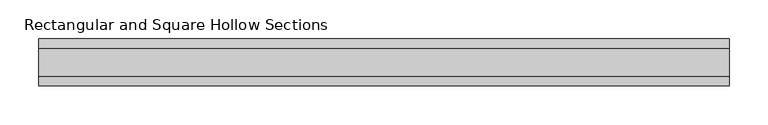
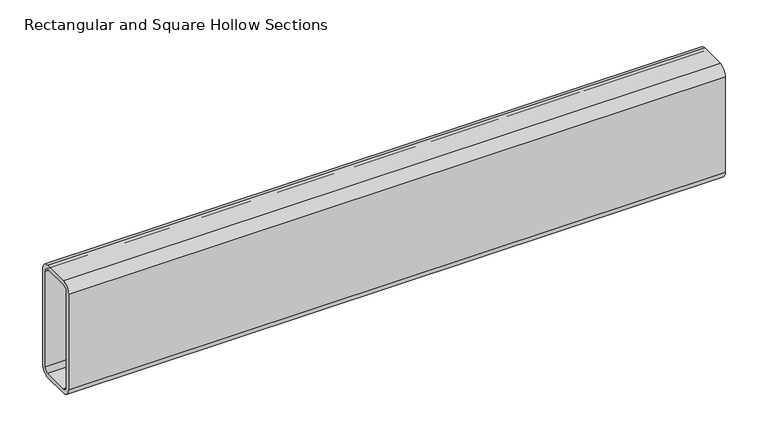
"""IFC4 building model written with IfcOpenShell, lengths in millimetres: beam geometry, Rectangular and Square Hollow Sections : TREC160x60x6."""

import ifcopenshell
import ifcopenshell.guid

model = None  # the IFC model being written
_history = None  # IfcOwnerHistory: only IFC2X3 demands one
_inside = {}  # id of a spatial element -> (the spatial element, [elements in it])
_under = {}  # id of a project, library or spatial element -> (it, [spatial elements below it])
_declared = {}  # id of a project -> (the project, [libraries it declares])
_typed = {}  # id of a type object -> (the type object, [elements of that type])
_made_of = {}  # id of a material, layer set ... -> (it, [elements and type objects made of it])


def new_model(schema):
    """Start an empty IFC model of exactly this schema.

    Asked for "IFC4X3", IfcOpenShell would pick the latest addendum, in which some entities
    have other attributes; the version numbers below select the first issue.
    IFC2X3 requires an IfcOwnerHistory on every rooted entity: one is made here for all.
    """
    global model, _history
    if schema == "IFC4X3":
        model = ifcopenshell.file(schema_version=(4, 3, 0, 0))
    else:
        model = ifcopenshell.file(schema=schema)
    _inside.clear()
    _under.clear()
    _declared.clear()
    _typed.clear()
    _made_of.clear()
    _history = None
    if model.schema == "IFC2X3":
        org = make("IfcOrganization", Name="unknown")
        user = make(
            "IfcPersonAndOrganization",
            ThePerson=make("IfcPerson", FamilyName="unknown"),
            TheOrganization=org,
        )
        app = make(
            "IfcApplication",
            ApplicationDeveloper=org,
            Version="unknown",
            ApplicationFullName="unknown",
            ApplicationIdentifier="unknown",
        )
        _history = make(
            "IfcOwnerHistory",
            OwningUser=user,
            OwningApplication=app,
            ChangeAction="ADDED",
            CreationDate=0,
        )
    return model


def make(cls, **values):
    """One entity of the class cls with the attributes given. An attribute that is None is left unset."""
    return model.create_entity(
        cls, **{name: value for name, value in values.items() if value is not None}
    )


def rooted(cls, **values):
    """An entity with a GlobalId (a new one), such as an element, a storey or a relation."""
    return make(cls, GlobalId=ifcopenshell.guid.new(), OwnerHistory=_history, **values)


def si_unit(unit_type, name, prefix=None):
    """IfcSIUnit, for example si_unit("LENGTHUNIT", "METRE", prefix="MILLI")."""
    return make("IfcSIUnit", UnitType=unit_type, Prefix=prefix, Name=name)


def assignment(units):
    """IfcUnitAssignment: the units of a project."""
    return None if units is None else make("IfcUnitAssignment", Units=units)


def point(xyz):
    """IfcCartesianPoint."""
    return None if xyz is None else make("IfcCartesianPoint", Coordinates=xyz)


def direction(xyz):
    """IfcDirection."""
    return None if xyz is None else make("IfcDirection", DirectionRatios=xyz)


def frame(location, z_axis=None, x_axis=None):
    """IfcAxis2Placement3D, a coordinate frame: its origin and axes. An axis left out is left unset."""
    return make(
        "IfcAxis2Placement3D",
        Location=point(location),
        Axis=direction(z_axis),
        RefDirection=direction(x_axis),
    )


def frame_2d(location, x_axis=None):
    """IfcAxis2Placement2D, a coordinate frame in the plane: its origin and x axis."""
    return make(
        "IfcAxis2Placement2D", Location=point(location), RefDirection=direction(x_axis)
    )


def origin():
    """The frame at (0, 0, 0) with its axes left unset."""
    return frame((0.0, 0.0, 0.0))


def place(relative_to, where):
    """IfcLocalPlacement: puts the frame where relative to a parent placement (None: the world)."""
    return make(
        "IfcLocalPlacement", PlacementRelTo=relative_to, RelativePlacement=where
    )


def context(
    kind, dimensions, precision=None, world=None, true_north=None, identifier=None
):
    """IfcGeometricRepresentationContext, for example the 3D "Model" context."""
    return make(
        "IfcGeometricRepresentationContext",
        ContextIdentifier=identifier,
        ContextType=kind,
        CoordinateSpaceDimension=dimensions,
        Precision=precision,
        WorldCoordinateSystem=world,
        TrueNorth=true_north,
    )


def project(units=None, contexts=None):
    """IfcProject with its units and contexts."""
    return rooted(
        "IfcProject",
        Name="project",
        RepresentationContexts=contexts,
        UnitsInContext=assignment(units),
    )


def spatial(cls, under=None, at=None, **own):
    """A site, building, storey or space (cls), placed at a placement, below another one or the project."""
    s = rooted(cls, ObjectPlacement=at, **own)
    if under is not None:
        _under.setdefault(under.id(), (under, []))[1].append(s)
    return s


def polyline(points):
    """IfcPolyline through the points."""
    return make("IfcPolyline", Points=[point(p) for p in points])


def circle_curve(where, radius):
    """IfcCircle in the frame where."""
    return make("IfcCircle", Position=where, Radius=radius)


def trimmed(basis, trim1, trim2, sense, master):
    """IfcTrimmedCurve: the piece of a basis curve between two trims."""
    return make(
        "IfcTrimmedCurve",
        BasisCurve=basis,
        Trim1=trim1,
        Trim2=trim2,
        SenseAgreement=sense,
        MasterRepresentation=master,
    )


def segment(curve, same_sense, transition):
    """IfcCompositeCurveSegment."""
    return make(
        "IfcCompositeCurveSegment",
        Transition=transition,
        SameSense=same_sense,
        ParentCurve=curve,
    )


def composite_curve(segments, self_intersect=None):
    """IfcCompositeCurve: segments joined end to end."""
    return make("IfcCompositeCurve", Segments=segments, SelfIntersect=self_intersect)


def outline(outer, holes=None, kind="AREA"):
    """IfcArbitraryClosedProfileDef: a profile drawn as a closed curve; with holes, ...WithVoids."""
    if holes is None:
        return make("IfcArbitraryClosedProfileDef", ProfileType=kind, OuterCurve=outer)
    return make(
        "IfcArbitraryProfileDefWithVoids",
        ProfileType=kind,
        OuterCurve=outer,
        InnerCurves=holes,
    )


def extrude(swept, where, along, depth):
    """IfcExtrudedAreaSolid: the profile swept, set in the frame where, extruded along a direction by depth."""
    return make(
        "IfcExtrudedAreaSolid",
        SweptArea=swept,
        Position=where,
        ExtrudedDirection=direction(along),
        Depth=depth,
    )


def shape(context_of_items, identifier, shape_type, items):
    """IfcShapeRepresentation: the items that make up one representation, for example the "Body"."""
    return make(
        "IfcShapeRepresentation",
        ContextOfItems=context_of_items,
        RepresentationIdentifier=identifier,
        RepresentationType=shape_type,
        Items=items,
    )


def source(mapping_origin, context_of_items, identifier, shape_type, items):
    """IfcRepresentationMap: a shape defined once, which mapped items show again and again."""
    return make(
        "IfcRepresentationMap",
        MappingOrigin=mapping_origin,
        MappedRepresentation=shape(context_of_items, identifier, shape_type, items),
    )


def transform(
    local_origin,
    x_axis=None,
    y_axis=None,
    z_axis=None,
    scale=None,
    scale2=None,
    scale3=None,
    uniform=True,
):
    """IfcCartesianTransformationOperator3D, or its non-uniform kind. x_axis, y_axis, z_axis: its Axis1, 2, 3."""
    if uniform:
        return make(
            "IfcCartesianTransformationOperator3D",
            Axis1=direction(x_axis),
            Axis2=direction(y_axis),
            LocalOrigin=point(local_origin),
            Scale=scale,
            Axis3=direction(z_axis),
        )
    return make(
        "IfcCartesianTransformationOperator3DnonUniform",
        Axis1=direction(x_axis),
        Axis2=direction(y_axis),
        LocalOrigin=point(local_origin),
        Scale=scale,
        Axis3=direction(z_axis),
        Scale2=scale2,
        Scale3=scale3,
    )


def mapped(mapping_source, mapping_target):
    """IfcMappedItem: shows the shape of a source again, moved by a transform."""
    return make(
        "IfcMappedItem", MappingSource=mapping_source, MappingTarget=mapping_target
    )


def made_of(thing, what):
    """Note that an element or type object is made of a material, layer set ...; save() writes the relation."""
    if what is not None:
        _made_of.setdefault(what.id(), (what, []))[1].append(thing)
    return thing


def element(
    cls,
    number,
    at=None,
    inside=None,
    cuts=None,
    type_object=None,
    material=None,
    context=None,
    identifier="Body",
    shape_type=None,
    held_by="IfcProductDefinitionShape",
    body=None,
    shapes=None,
    **own,
):
    """One element of the class cls, such as IfcWall. Its Tag is "e" and its number.

    at: its placement. inside: the storey or other place that contains it. cuts: it is an
    opening in that element (IfcRelVoidsElement). A single representation is given by context,
    identifier, shape_type and body (its items); several are given by shapes. held_by: the class
    of the entity that holds the representations. save() writes the other relations.
    """
    e = rooted(cls, Tag="e%d" % number, ObjectPlacement=at, **own)
    if body is not None:
        shapes = [shape(context, identifier, shape_type, body)]
    if shapes is not None:
        e.Representation = make(held_by, Representations=shapes)
    if inside is not None:
        _inside.setdefault(inside.id(), (inside, []))[1].append(e)
    if cuts is not None:
        rooted(
            "IfcRelVoidsElement", RelatingBuildingElement=cuts, RelatedOpeningElement=e
        )
    if type_object is not None:
        _typed.setdefault(type_object.id(), (type_object, []))[1].append(e)
    return made_of(e, material)


def aggregate(whole, parts):
    """IfcRelAggregates: a whole, such as a stair, and the parts it consists of."""
    return rooted("IfcRelAggregates", RelatingObject=whole, RelatedObjects=parts)


def save(model, path):
    """Write the relations noted so far, then the file.

    IfcRelAggregates (storeys below a building ...), IfcRelContainedInSpatialStructure (elements
    in a storey), IfcRelDefinesByType, IfcRelAssociatesMaterial and IfcRelDeclares: one each for
    every whole, place, type object, material and project.
    """
    for whole, parts in _under.values():
        aggregate(whole, parts)
    for where, things in _inside.values():
        rooted(
            "IfcRelContainedInSpatialStructure",
            RelatedElements=things,
            RelatingStructure=where,
        )
    for kind, things in _typed.values():
        rooted("IfcRelDefinesByType", RelatedObjects=things, RelatingType=kind)
    for what, things in _made_of.values():
        rooted("IfcRelAssociatesMaterial", RelatedObjects=things, RelatingMaterial=what)
    for by, libraries in _declared.values():
        rooted("IfcRelDeclares", RelatingContext=by, RelatedDefinitions=libraries)
    model.write(path)


def rectangular_and_square_hollow_sections_39105970(model_context):
    return source(origin(), model_context, "Body", "SweptSolid", [
        extrude(outline(composite_curve([segment(polyline([(30.0, 68.0), (30.0, -68.0)]), True, "CONTINUOUS"), segment(trimmed(circle_curve(frame_2d((18.0, -68.0)), 12.0), [point((30.0, -68.0))], [point((18.0, -80.0))], False, "CARTESIAN"), True, "CONTINUOUS"), segment(polyline([(18.0, -80.0), (-18.0, -80.0)]), True, "CONTINUOUS"), segment(trimmed(circle_curve(frame_2d((-18.0, -68.0)), 12.0), [point((-18.0, -80.0))], [point((-30.0, -68.0))], False, "CARTESIAN"), True, "CONTINUOUS"), segment(polyline([(-30.0, -68.0), (-30.0, 68.0)]), True, "CONTINUOUS"), segment(trimmed(circle_curve(frame_2d((-18.0, 68.0)), 12.0), [point((-30.0, 68.0))], [point((-18.0, 80.0))], False, "CARTESIAN"), True, "CONTINUOUS"), segment(polyline([(-18.0, 80.0), (18.0, 80.0)]), True, "CONTINUOUS"), segment(trimmed(circle_curve(frame_2d((18.0, 68.0)), 12.0), [point((18.0, 80.0))], [point((30.0, 68.0))], False, "CARTESIAN"), True, "CONTINUOUS")], self_intersect=False), holes=[composite_curve([segment(trimmed(circle_curve(frame_2d((-18.0, 68.0)), 6.0), [point((-18.0, 74.0))], [point((-24.0, 68.0))], True, "CARTESIAN"), True, "CONTINUOUS"), segment(polyline([(-24.0, 68.0), (-24.0, -68.0)]), True, "CONTINUOUS"), segment(trimmed(circle_curve(frame_2d((-18.0, -68.0)), 6.0), [point((-24.0, -68.0))], [point((-18.0, -74.0))], True, "CARTESIAN"), True, "CONTINUOUS"), segment(polyline([(-18.0, -74.0), (18.0, -74.0)]), True, "CONTINUOUS"), segment(trimmed(circle_curve(frame_2d((18.0, -68.0)), 6.0), [point((18.0, -74.0))], [point((24.0, -68.0))], True, "CARTESIAN"), True, "CONTINUOUS"), segment(polyline([(24.0, -68.0), (24.0, 68.0)]), True, "CONTINUOUS"), segment(trimmed(circle_curve(frame_2d((18.0, 68.0)), 6.0), [point((24.0, 68.0))], [point((18.0, 74.0))], True, "CARTESIAN"), True, "CONTINUOUS"), segment(polyline([(18.0, 74.0), (-18.0, 74.0)]), True, "CONTINUOUS")], self_intersect=False)]), frame((-424.5, 0.0, 0.0), z_axis=(1.0, 0.0, 0.0), x_axis=(0.0, 1.0, 0.0)), (0.0, 0.0, 1.0), 885.0),
    ])


if __name__ == "__main__":
    model = new_model("IFC4")
    model_context = context("Model", 3, world=origin())
    ifc_project = project(units=[si_unit("LENGTHUNIT", "METRE", prefix="MILLI")], contexts=[model_context])
    site = spatial("IfcSite", under=ifc_project)
    building = spatial("IfcBuilding", under=site)
    placement = place(None, origin())
    rectangular_and_square_hollow_sections_shape = rectangular_and_square_hollow_sections_39105970(model_context)
    element("IfcBeam", 1, ObjectType="Rectangular and Square Hollow Sections : TREC160x60x6", at=placement, inside=building, context=model_context, shape_type="MappedRepresentation", body=[
        mapped(rectangular_and_square_hollow_sections_shape, transform((0.0, 0.0, 0.0), x_axis=(1.0, 0.0, 0.0), y_axis=(0.0, 1.0, 0.0), z_axis=(0.0, 0.0, 1.0))),
    ])
    save(model, "model.ifc")
